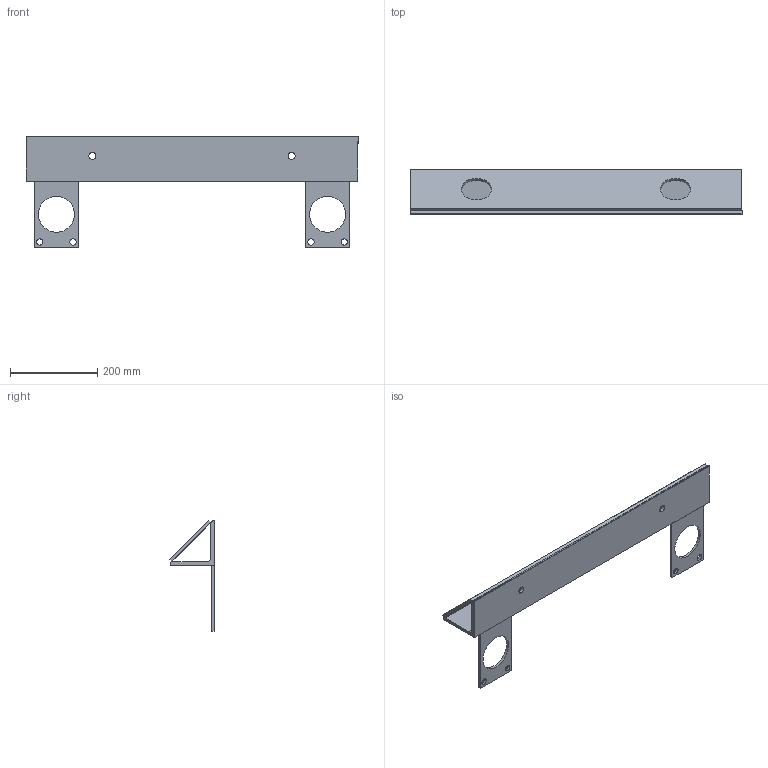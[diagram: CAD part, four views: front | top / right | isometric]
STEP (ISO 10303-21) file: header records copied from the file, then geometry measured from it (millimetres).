
FILE_DESCRIPTION (( 'STEP AP214' ), '1' );
FILE_NAME ('HBG-C-30.STEP', '2024-05-31T16:22:03', ( '' ), ( '' ), 'SwSTEP 2.0', 'SolidWorks 2023', '' );
FILE_SCHEMA (( 'AUTOMOTIVE_DESIGN' ));
Length unit declared in the file: inch
Products named in the file (4): 100-94725_Default<As Machined>; HBG-C-30; HP-00055_CS; 100-94726
Assembly tree (4 placements, depth 2):
  HBG-C-30
    HP-00055_CS  x2
    100-94726
    100-94725_Default<As Machined>
Bounding box: 762 x 102.24 x 254.64 mm (x, y, z)
Volume: 1871805.5 mm3; surface area: 547948.5 mm2
Topology: 4 solids, 4 shells, 49 faces, 123 edges, 82 vertices
Faces by surface type: plane 26, cylinder 23
Entity records: 1292 total; most frequent: DIRECTION 215, CARTESIAN_POINT 199, ORIENTED_EDGE 186, EDGE_CURVE 93, AXIS2_PLACEMENT_3D 78, VERTEX_POINT 62, VECTOR 59, LINE 59
